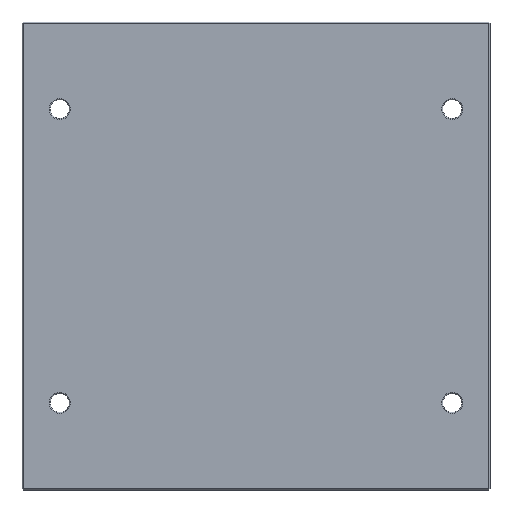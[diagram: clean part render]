
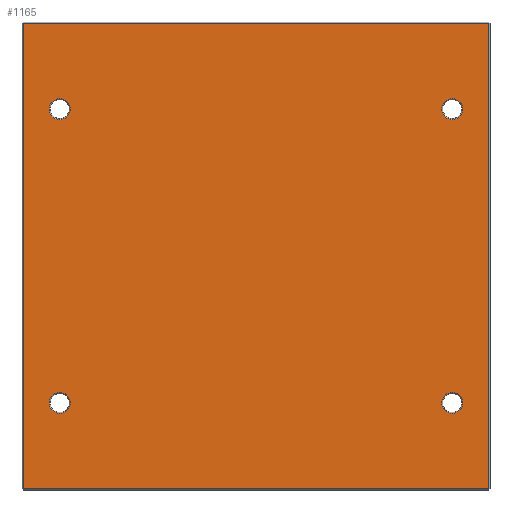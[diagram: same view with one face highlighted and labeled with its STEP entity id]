
A CAD part, front view. The second image highlights one B-rep face of the part: STEP entity #1165.
In plain terms, the highlighted planar face has unit normal (0, -1, 0).
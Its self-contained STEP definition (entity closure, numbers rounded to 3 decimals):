
#31 = LINE ( 'NONE', #1156, #1652 ) ;
#32 = CARTESIAN_POINT ( 'NONE',  ( -187., 0., -150. ) ) ;
#45 = EDGE_LOOP ( 'NONE', ( #1588, #640 ) ) ;
#89 = CARTESIAN_POINT ( 'NONE',  ( 0., 0., 0. ) ) ;
#92 = AXIS2_PLACEMENT_3D ( 'NONE', #1094, #1229, #1177 ) ;
#93 = ORIENTED_EDGE ( 'NONE', *, *, #820, .T. ) ;
#102 = DIRECTION ( 'NONE',  ( 0., 0., 1. ) ) ;
#109 = CIRCLE ( 'NONE', #923, 10. ) ;
#129 = DIRECTION ( 'NONE',  ( 0., 1., 0. ) ) ;
#141 = CARTESIAN_POINT ( 'NONE',  ( 0., 0., 222. ) ) ;
#144 = AXIS2_PLACEMENT_3D ( 'NONE', #1168, #1124, #1120 ) ;
#171 = CIRCLE ( 'NONE', #144, 10. ) ;
#186 = CIRCLE ( 'NONE', #1257, 10. ) ;
#189 = AXIS2_PLACEMENT_3D ( 'NONE', #1368, #1356, #1348 ) ;
#206 = VERTEX_POINT ( 'NONE', #1580 ) ;
#216 = DIRECTION ( 'NONE',  ( 0., 1., 0. ) ) ;
#227 = CARTESIAN_POINT ( 'NONE',  ( -187., 0., 130. ) ) ;
#257 = PLANE ( 'NONE',  #1166 ) ;
#274 = ORIENTED_EDGE ( 'NONE', *, *, #811, .T. ) ;
#296 = EDGE_LOOP ( 'NONE', ( #439, #93, #431, #946 ) ) ;
#302 = CARTESIAN_POINT ( 'NONE',  ( 187., 0., 130. ) ) ;
#358 = EDGE_LOOP ( 'NONE', ( #759, #1009 ) ) ;
#407 = VERTEX_POINT ( 'NONE', #32 ) ;
#423 = EDGE_CURVE ( 'NONE', #878, #752, #1025, .T. ) ;
#431 = ORIENTED_EDGE ( 'NONE', *, *, #824, .T. ) ;
#435 = DIRECTION ( 'NONE',  ( 0., 1., 0. ) ) ;
#438 = DIRECTION ( 'NONE',  ( 0., 0., 1. ) ) ;
#439 = ORIENTED_EDGE ( 'NONE', *, *, #815, .T. ) ;
#461 = CARTESIAN_POINT ( 'NONE',  ( 222., 0., 222. ) ) ;
#464 = CARTESIAN_POINT ( 'NONE',  ( 187., 0., 140. ) ) ;
#465 = CARTESIAN_POINT ( 'NONE',  ( 187., 0., -140. ) ) ;
#481 = CARTESIAN_POINT ( 'NONE',  ( 187., 0., -130. ) ) ;
#487 = VERTEX_POINT ( 'NONE', #1209 ) ;
#578 = VERTEX_POINT ( 'NONE', #481 ) ;
#639 = AXIS2_PLACEMENT_3D ( 'NONE', #464, #129, #438 ) ;
#640 = ORIENTED_EDGE ( 'NONE', *, *, #814, .T. ) ;
#675 = CARTESIAN_POINT ( 'NONE',  ( -222., 0., 222. ) ) ;
#697 = EDGE_CURVE ( 'NONE', #1090, #736, #856, .T. ) ;
#702 = DIRECTION ( 'NONE',  ( 1., 0., 0. ) ) ;
#734 = EDGE_LOOP ( 'NONE', ( #1475, #274 ) ) ;
#736 = VERTEX_POINT ( 'NONE', #1063 ) ;
#752 = VERTEX_POINT ( 'NONE', #827 ) ;
#759 = ORIENTED_EDGE ( 'NONE', *, *, #775, .T. ) ;
#763 = DIRECTION ( 'NONE',  ( 0., 0., 1. ) ) ;
#775 = EDGE_CURVE ( 'NONE', #206, #578, #1426, .T. ) ;
#804 = EDGE_CURVE ( 'NONE', #578, #206, #109, .T. ) ;
#807 = EDGE_CURVE ( 'NONE', #736, #1090, #186, .T. ) ;
#811 = EDGE_CURVE ( 'NONE', #752, #878, #911, .T. ) ;
#814 = EDGE_CURVE ( 'NONE', #1363, #407, #171, .T. ) ;
#815 = EDGE_CURVE ( 'NONE', #487, #1424, #31, .T. ) ;
#820 = EDGE_CURVE ( 'NONE', #1424, #1516, #1302, .T. ) ;
#824 = EDGE_CURVE ( 'NONE', #1516, #919, #1562, .T. ) ;
#826 = EDGE_CURVE ( 'NONE', #919, #487, #1235, .T. ) ;
#827 = CARTESIAN_POINT ( 'NONE',  ( -187., 0., 150. ) ) ;
#838 = CARTESIAN_POINT ( 'NONE',  ( 0., 0., -222. ) ) ;
#851 = DIRECTION ( 'NONE',  ( 0., 0., -1. ) ) ;
#856 = CIRCLE ( 'NONE', #639, 10. ) ;
#872 = AXIS2_PLACEMENT_3D ( 'NONE', #882, #1060, #763 ) ;
#878 = VERTEX_POINT ( 'NONE', #227 ) ;
#882 = CARTESIAN_POINT ( 'NONE',  ( -187., 0., -140. ) ) ;
#911 = CIRCLE ( 'NONE', #92, 10. ) ;
#919 = VERTEX_POINT ( 'NONE', #1331 ) ;
#923 = AXIS2_PLACEMENT_3D ( 'NONE', #1597, #1527, #1645 ) ;
#946 = ORIENTED_EDGE ( 'NONE', *, *, #826, .T. ) ;
#1009 = ORIENTED_EDGE ( 'NONE', *, *, #804, .T. ) ;
#1025 = CIRCLE ( 'NONE', #189, 10. ) ;
#1060 = DIRECTION ( 'NONE',  ( 0., 1., 0. ) ) ;
#1063 = CARTESIAN_POINT ( 'NONE',  ( 187., 0., 150. ) ) ;
#1065 = VECTOR ( 'NONE', #702, 1000. ) ;
#1090 = VERTEX_POINT ( 'NONE', #302 ) ;
#1091 = CARTESIAN_POINT ( 'NONE',  ( -222., 0., 0. ) ) ;
#1094 = CARTESIAN_POINT ( 'NONE',  ( -187., 0., 140. ) ) ;
#1120 = DIRECTION ( 'NONE',  ( 0., 0., 1. ) ) ;
#1124 = DIRECTION ( 'NONE',  ( 0., 1., 0. ) ) ;
#1156 = CARTESIAN_POINT ( 'NONE',  ( 222., 0., 0. ) ) ;
#1164 = VECTOR ( 'NONE', #851, 1000. ) ;
#1165 = ADVANCED_FACE ( 'NONE', ( #1429, #1392, #1375, #1414, #1355 ), #257, .F. ) ;
#1166 = AXIS2_PLACEMENT_3D ( 'NONE', #89, #216, #102 ) ;
#1168 = CARTESIAN_POINT ( 'NONE',  ( -187., 0., -140. ) ) ;
#1177 = DIRECTION ( 'NONE',  ( 0., 0., 1. ) ) ;
#1189 = DIRECTION ( 'NONE',  ( -1., 0., 0. ) ) ;
#1194 = ORIENTED_EDGE ( 'NONE', *, *, #697, .T. ) ;
#1209 = CARTESIAN_POINT ( 'NONE',  ( 222., 0., -222. ) ) ;
#1227 = AXIS2_PLACEMENT_3D ( 'NONE', #465, #435, #1501 ) ;
#1229 = DIRECTION ( 'NONE',  ( 0., 1., 0. ) ) ;
#1235 = LINE ( 'NONE', #838, #1065 ) ;
#1238 = VECTOR ( 'NONE', #1189, 1000. ) ;
#1251 = DIRECTION ( 'NONE',  ( 0., 0., 1. ) ) ;
#1257 = AXIS2_PLACEMENT_3D ( 'NONE', #1488, #1410, #1251 ) ;
#1264 = DIRECTION ( 'NONE',  ( 0., 0., 1. ) ) ;
#1284 = EDGE_CURVE ( 'NONE', #407, #1363, #1286, .T. ) ;
#1286 = CIRCLE ( 'NONE', #872, 10. ) ;
#1302 = LINE ( 'NONE', #141, #1238 ) ;
#1331 = CARTESIAN_POINT ( 'NONE',  ( -222., 0., -222. ) ) ;
#1348 = DIRECTION ( 'NONE',  ( 0., 0., 1. ) ) ;
#1355 = FACE_OUTER_BOUND ( 'NONE', #296, .T. ) ;
#1356 = DIRECTION ( 'NONE',  ( 0., 1., 0. ) ) ;
#1363 = VERTEX_POINT ( 'NONE', #1405 ) ;
#1368 = CARTESIAN_POINT ( 'NONE',  ( -187., 0., 140. ) ) ;
#1375 = FACE_BOUND ( 'NONE', #734, .T. ) ;
#1392 = FACE_BOUND ( 'NONE', #1444, .T. ) ;
#1405 = CARTESIAN_POINT ( 'NONE',  ( -187., 0., -130. ) ) ;
#1410 = DIRECTION ( 'NONE',  ( 0., 1., 0. ) ) ;
#1414 = FACE_BOUND ( 'NONE', #45, .T. ) ;
#1424 = VERTEX_POINT ( 'NONE', #461 ) ;
#1426 = CIRCLE ( 'NONE', #1227, 10. ) ;
#1428 = ORIENTED_EDGE ( 'NONE', *, *, #807, .T. ) ;
#1429 = FACE_BOUND ( 'NONE', #358, .T. ) ;
#1444 = EDGE_LOOP ( 'NONE', ( #1194, #1428 ) ) ;
#1475 = ORIENTED_EDGE ( 'NONE', *, *, #423, .T. ) ;
#1488 = CARTESIAN_POINT ( 'NONE',  ( 187., 0., 140. ) ) ;
#1501 = DIRECTION ( 'NONE',  ( 0., 0., 1. ) ) ;
#1516 = VERTEX_POINT ( 'NONE', #675 ) ;
#1527 = DIRECTION ( 'NONE',  ( 0., 1., 0. ) ) ;
#1562 = LINE ( 'NONE', #1091, #1164 ) ;
#1580 = CARTESIAN_POINT ( 'NONE',  ( 187., 0., -150. ) ) ;
#1588 = ORIENTED_EDGE ( 'NONE', *, *, #1284, .T. ) ;
#1597 = CARTESIAN_POINT ( 'NONE',  ( 187., 0., -140. ) ) ;
#1645 = DIRECTION ( 'NONE',  ( 0., 0., 1. ) ) ;
#1652 = VECTOR ( 'NONE', #1264, 1000. ) ;
